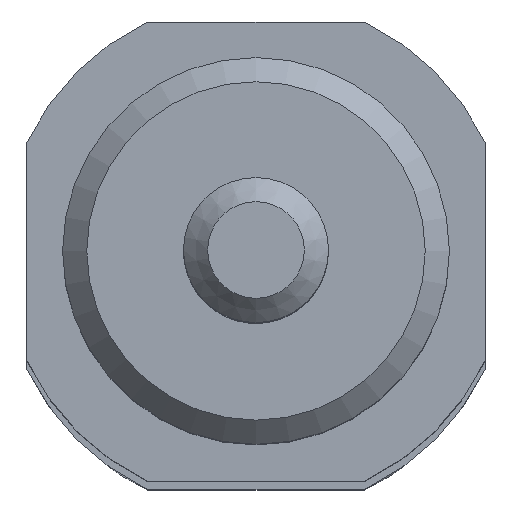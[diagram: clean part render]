
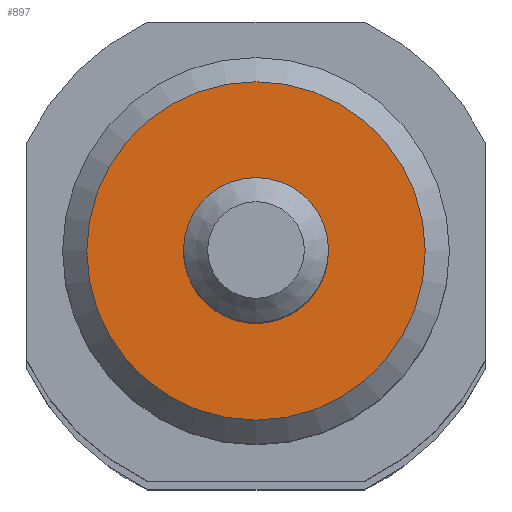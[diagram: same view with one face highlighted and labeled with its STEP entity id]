
A CAD part, top view. The second image highlights one B-rep face of the part: STEP entity #897.
In plain terms, the highlighted planar face has unit normal (0, 0, 1).
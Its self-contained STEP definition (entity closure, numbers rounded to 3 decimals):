
#835=CARTESIAN_POINT('',(7.,0.,240.));
#836=VERTEX_POINT('',#835);
#837=CARTESIAN_POINT('',(0.,0.,240.));
#838=DIRECTION('',(0.0,0.0,-1.0));
#839=DIRECTION('',(-1.0,0.0,0.0));
#840=AXIS2_PLACEMENT_3D('',#837,#838,#839);
#841=CIRCLE('',#840,7.);
#842=EDGE_CURVE('',#836,#836,#841,.T.);
#878=CARTESIAN_POINT('',(0.,0.,240.));
#879=DIRECTION('',(0.0,0.0,-1.0));
#880=DIRECTION('',(-1.0,0.0,0.0));
#881=AXIS2_PLACEMENT_3D('',#878,#879,#880);
#882=PLANE('',#881);
#883=ORIENTED_EDGE('',*,*,#842,.F.);
#884=EDGE_LOOP('',(#883));
#885=FACE_OUTER_BOUND('',#884,.T.);
#886=CARTESIAN_POINT('',(3.,0.,240.));
#887=VERTEX_POINT('',#886);
#888=CARTESIAN_POINT('',(0.,0.,240.));
#889=DIRECTION('',(0.0,0.0,-1.0));
#890=DIRECTION('',(-1.0,0.0,0.0));
#891=AXIS2_PLACEMENT_3D('',#888,#889,#890);
#892=CIRCLE('',#891,3.);
#893=EDGE_CURVE('',#887,#887,#892,.T.);
#894=ORIENTED_EDGE('',*,*,#893,.T.);
#895=EDGE_LOOP('',(#894));
#896=FACE_BOUND('',#895,.T.);
#897=ADVANCED_FACE('',(#885,#896),#882,.F.);
